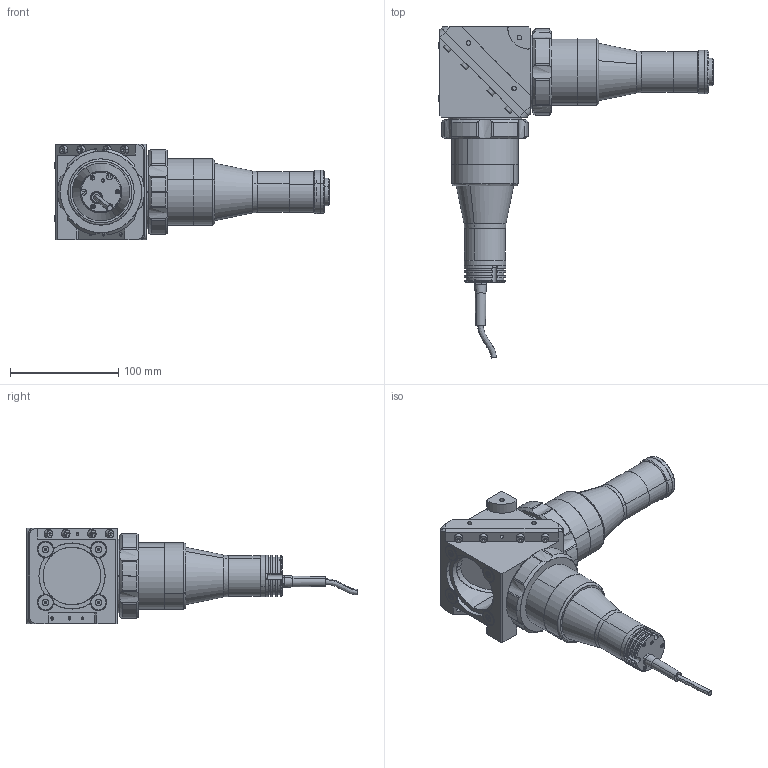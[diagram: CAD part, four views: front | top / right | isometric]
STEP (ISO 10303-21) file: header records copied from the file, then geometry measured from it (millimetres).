
FILE_DESCRIPTION(('LS-TCL-0413'),'2;1');
FILE_NAME('LS-TCL-0413.stp','2026-10-15T21:56:51',('LumaSpec Vision'),('LumaSpec Vision'),'LumaSpec Vision','LumaSpec Vision','');
FILE_SCHEMA(('AUTOMOTIVE_DESIGN { 1 0 10303 214 1 1 1 1 }'));
Length unit declared in the file: millimetre
Products named in the file (603): LumaSpec Vision
Assembly tree (602 placements, depth 2):
  LumaSpec Vision
    LumaSpec Vision
    LumaSpec Vision
    LumaSpec Vision
    LumaSpec Vision
    LumaSpec Vision
    LumaSpec Vision
    LumaSpec Vision
    LumaSpec Vision
    LumaSpec Vision
    LumaSpec Vision
    LumaSpec Vision
    LumaSpec Vision
    LumaSpec Vision
    LumaSpec Vision
    LumaSpec Vision
    LumaSpec Vision
    LumaSpec Vision
    LumaSpec Vision
    LumaSpec Vision
    LumaSpec Vision
    LumaSpec Vision
    LumaSpec Vision
    LumaSpec Vision
    LumaSpec Vision
    LumaSpec Vision
    LumaSpec Vision
    LumaSpec Vision
    LumaSpec Vision
    LumaSpec Vision
    LumaSpec Vision
    LumaSpec Vision
    LumaSpec Vision
    LumaSpec Vision
    LumaSpec Vision
    LumaSpec Vision
    LumaSpec Vision
    LumaSpec Vision
    LumaSpec Vision
    LumaSpec Vision
    LumaSpec Vision
    LumaSpec Vision
    LumaSpec Vision
    LumaSpec Vision
    LumaSpec Vision
    LumaSpec Vision
    LumaSpec Vision
    LumaSpec Vision
    LumaSpec Vision
    LumaSpec Vision
    LumaSpec Vision
    LumaSpec Vision
    LumaSpec Vision
    LumaSpec Vision
    LumaSpec Vision
    LumaSpec Vision
    LumaSpec Vision
    LumaSpec Vision
    LumaSpec Vision
    LumaSpec Vision
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Bounding box: 252.7 x 306.13 x 88 mm (x, y, z)
Surface area: 141988.3 mm2 (no closed solid volume)
Topology: 0 solids, 602 shells, 602 faces, 10077 edges, 10044 vertices
Faces by surface type: revolution 384, bspline 218
Entity records: 169570 total; most frequent: CARTESIAN_POINT 68198, B_SPLINE_CURVE_WITH_KNOTS 17927, ORIENTED_EDGE 10044, EDGE_CURVE 10044, VERTEX_POINT 10044, SURFACE_CURVE 10044, PCURVE 10044, DEFINITIONAL_REPRESENTATION 10044
